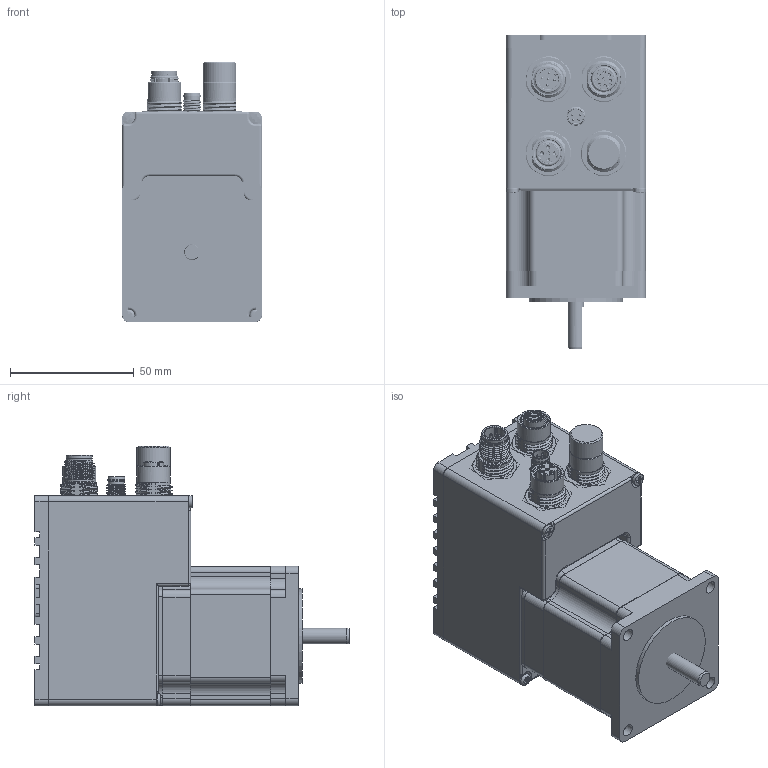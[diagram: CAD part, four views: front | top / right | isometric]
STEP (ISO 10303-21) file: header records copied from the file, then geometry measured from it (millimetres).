
FILE_DESCRIPTION(/* description */ ('Unknown'),/* implementation_level */ '2;1');
FILE_NAME(/* name */ 'SM4D260PE275BM0',/* time_stamp */ '2021-08-31T11:14:35+02:00',/* author */ ('Unknown'),/* organization */ ('Unknown'),/* preprocessor_version */ 'ST-DEVELOPER v16.7',/* originating_system */ 'Solid Edge',/* authorisation */ 'Unknown');
FILE_SCHEMA (('AUTOMOTIVE_DESIGN {1 0 10303 214 3 1 1}'));
Products named in the file (23): SM4D2 con IMD12; dissipatore_imd12_2prot; scatola_sm4d2xx_imd12_2prot; imd12_guarnizione_dissipatore; mica_imd12; hexdist_MF_M2e5 x 12mm; tcc_M2e5x05; tcc_M3x08; imd12_piana_motore; MSDS-04PFFP-SF8001-STP; 8-04pmms-sf7001; 8-04PMMS-SF7001; MT23HE22042A4Z1; ASM0001_ASM_1_ASM; 123_1; MT23HE22028E4LVFRONTENDBELL_2; MT23HE22028E4LVREARENDBELL_2; MT23HE22028E4LVSHAFT_1; M12A-05PMMS-SF8001-STP; M12A-08PFFS-SF8001-STP; tcc_M2e5x60; TAPPO_M12; tcc_M2e5x47
Assembly tree (34 placements, depth 4):
  SM4D2 con IMD12
    dissipatore_imd12_2prot
    scatola_sm4d2xx_imd12_2prot
    imd12_guarnizione_dissipatore
    mica_imd12  x2
    hexdist_MF_M2e5 x 12mm  x3
    tcc_M2e5x05  x4
    tcc_M3x08  x4
    imd12_piana_motore
    MSDS-04PFFP-SF8001-STP  x2
    8-04pmms-sf7001
      8-04PMMS-SF7001
    MT23HE22042A4Z1
      ASM0001_ASM_1_ASM
        123_1
        MT23HE22028E4LVFRONTENDBELL_2
        MT23HE22028E4LVREARENDBELL_2
        MT23HE22028E4LVSHAFT_1
    M12A-05PMMS-SF8001-STP
    M12A-08PFFS-SF8001-STP
    tcc_M2e5x60  x2
    TAPPO_M12
    tcc_M2e5x47  x2
Bounding box: 56.4 x 127.08 x 105 mm (x, y, z)
Volume: 167629.1 mm3; surface area: 123849.4 mm2
Topology: 34 solids, 39 shells, 4048 faces, 10939 edges, 7243 vertices
Faces by surface type: plane 1976, cylinder 946, bspline 777, cone 240, torus 60, sphere 49
Full cylindrical faces by diameter (mm): 0.8 x20, 1 x24, 1.05 x8, 1.2 x12, 1.25 x8, 1.4 x4, 1.42 x8, 1.45 x5, 1.5 x12, 1.55 x16, 1.6 x8, 1.62 x8, 1.78 x8, 2 x2, 2.05 x4, 2.5 x22, 2.7 x4, 3 x20, 5 x13, 5.75 x3, 5.8 x1, 6 x4, 6.35 x1, 6.5 x1, 6.9 x1, 8 x1, 8.2 x3, 8.3 x1, 8.4 x1, 8.6 x1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
Entity records: 145129 total; most frequent: CARTESIAN_POINT 56525, ORIENTED_EDGE 16908, DIRECTION 12667, EDGE_CURVE 8458, VERTEX_POINT 5774, LINE 4323, VECTOR 4323, AXIS2_PLACEMENT_3D 4172
